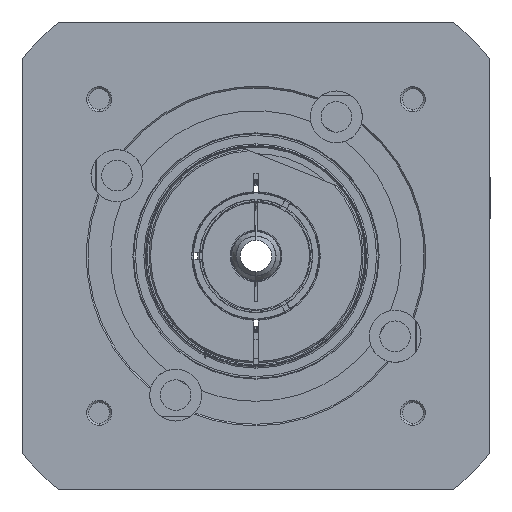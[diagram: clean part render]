
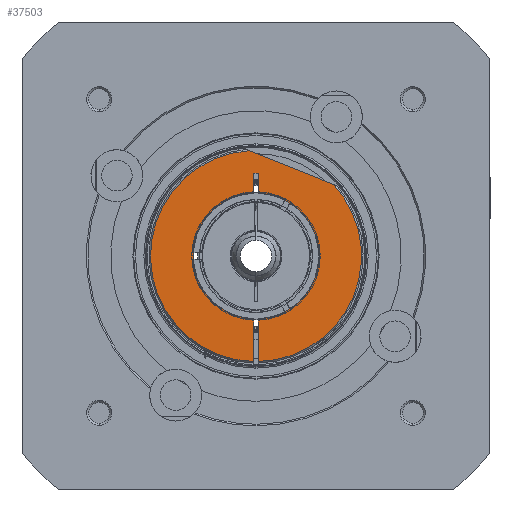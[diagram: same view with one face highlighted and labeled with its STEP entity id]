
A CAD part, left-side view. The second image highlights one B-rep face of the part: STEP entity #37503.
In plain terms, the highlighted planar face has unit normal (-1, 0, 0).
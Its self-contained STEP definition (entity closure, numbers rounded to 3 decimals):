
#895 = CARTESIAN_POINT ( 'NONE',  ( -139.97, 0., 0. ) ) ;
#1285 = VECTOR ( 'NONE', #34674, 1000. ) ;
#1661 = ORIENTED_EDGE ( 'NONE', *, *, #30618, .T. ) ;
#3346 = LINE ( 'NONE', #49158, #40264 ) ;
#4895 = EDGE_CURVE ( 'NONE', #32345, #30576, #5176, .T. ) ;
#5176 = CIRCLE ( 'NONE', #36086, 20.6 ) ;
#5492 = CIRCLE ( 'NONE', #16084, 34.5 ) ;
#5856 = ORIENTED_EDGE ( 'NONE', *, *, #42438, .T. ) ;
#6571 = CARTESIAN_POINT ( 'NONE',  ( -139.97, 3.203, 34.853 ) ) ;
#7576 = VERTEX_POINT ( 'NONE', #32714 ) ;
#7639 = CARTESIAN_POINT ( 'NONE',  ( -139.97, 0., 0. ) ) ;
#8224 = DIRECTION ( 'NONE',  ( 1., 0., 0. ) ) ;
#8691 = EDGE_CURVE ( 'NONE', #7576, #49073, #5492, .T. ) ;
#9440 = DIRECTION ( 'NONE',  ( 0., 0., -1. ) ) ;
#9922 = EDGE_CURVE ( 'NONE', #36369, #44757, #24710, .T. ) ;
#10126 = VERTEX_POINT ( 'NONE', #30111 ) ;
#10492 = CARTESIAN_POINT ( 'NONE',  ( -139.97, 0.75, -34.492 ) ) ;
#10913 = ORIENTED_EDGE ( 'NONE', *, *, #9922, .T. ) ;
#11651 = CARTESIAN_POINT ( 'NONE',  ( -139.97, -0.75, -20.586 ) ) ;
#11749 = DIRECTION ( 'NONE',  ( 0., 0., 1. ) ) ;
#11809 = CIRCLE ( 'NONE', #48800, 34.5 ) ;
#15092 = DIRECTION ( 'NONE',  ( 0., 0., -1. ) ) ;
#15119 = CARTESIAN_POINT ( 'NONE',  ( -139.97, 0., 0. ) ) ;
#16084 = AXIS2_PLACEMENT_3D ( 'NONE', #7639, #49274, #45127 ) ;
#16145 = CARTESIAN_POINT ( 'NONE',  ( -139.97, 0.75, 27. ) ) ;
#16155 = DIRECTION ( 'NONE',  ( 0., -1., 0. ) ) ;
#16689 = VECTOR ( 'NONE', #28379, 1000. ) ;
#16783 = VECTOR ( 'NONE', #11749, 1000. ) ;
#16872 = EDGE_CURVE ( 'NONE', #10126, #33609, #53713, .T. ) ;
#17064 = ORIENTED_EDGE ( 'NONE', *, *, #8691, .T. ) ;
#19199 = CARTESIAN_POINT ( 'NONE',  ( -139.97, 0., 0. ) ) ;
#20251 = CARTESIAN_POINT ( 'NONE',  ( -139.97, 0.75, 27. ) ) ;
#21109 = CARTESIAN_POINT ( 'NONE',  ( -139.97, 0.75, 27. ) ) ;
#22928 = VERTEX_POINT ( 'NONE', #38289 ) ;
#23406 = DIRECTION ( 'NONE',  ( 0., 0.928, 0.372 ) ) ;
#23648 = DIRECTION ( 'NONE',  ( 1., 0., 0. ) ) ;
#24391 = CARTESIAN_POINT ( 'NONE',  ( -139.97, -0.75, 20.586 ) ) ;
#24638 = AXIS2_PLACEMENT_3D ( 'NONE', #19199, #23648, #15092 ) ;
#24710 = LINE ( 'NONE', #21109, #53983 ) ;
#25471 = FACE_OUTER_BOUND ( 'NONE', #43399, .T. ) ;
#25734 = DIRECTION ( 'NONE',  ( 1., 0., 0. ) ) ;
#26320 = LINE ( 'NONE', #42052, #1285 ) ;
#27271 = ORIENTED_EDGE ( 'NONE', *, *, #53301, .T. ) ;
#28379 = DIRECTION ( 'NONE',  ( 0., 0., 1. ) ) ;
#30111 = CARTESIAN_POINT ( 'NONE',  ( -139.97, 0.75, -20.586 ) ) ;
#30576 = VERTEX_POINT ( 'NONE', #11651 ) ;
#30618 = EDGE_CURVE ( 'NONE', #44757, #32345, #3346, .T. ) ;
#30710 = AXIS2_PLACEMENT_3D ( 'NONE', #895, #25734, #9440 ) ;
#32345 = VERTEX_POINT ( 'NONE', #24391 ) ;
#32414 = VERTEX_POINT ( 'NONE', #10492 ) ;
#32714 = CARTESIAN_POINT ( 'NONE',  ( -139.97, -0.75, -34.492 ) ) ;
#32804 = LINE ( 'NONE', #49300, #16689 ) ;
#33609 = VERTEX_POINT ( 'NONE', #42544 ) ;
#33671 = DIRECTION ( 'NONE',  ( 0., 0., -1. ) ) ;
#34674 = DIRECTION ( 'NONE',  ( 0., 0., -1. ) ) ;
#36086 = AXIS2_PLACEMENT_3D ( 'NONE', #42696, #8224, #33671 ) ;
#36369 = VERTEX_POINT ( 'NONE', #20251 ) ;
#37146 = LINE ( 'NONE', #16145, #16783 ) ;
#37304 = ORIENTED_EDGE ( 'NONE', *, *, #16872, .T. ) ;
#37503 = ADVANCED_FACE ( 'NONE', ( #25471 ), #43123, .F. ) ;
#37592 = DIRECTION ( 'NONE',  ( 0., 0., -1. ) ) ;
#38289 = CARTESIAN_POINT ( 'NONE',  ( -139.97, 2.155, 34.433 ) ) ;
#39760 = ORIENTED_EDGE ( 'NONE', *, *, #51357, .T. ) ;
#40264 = VECTOR ( 'NONE', #37592, 1000. ) ;
#42052 = CARTESIAN_POINT ( 'NONE',  ( -139.97, -0.75, 27. ) ) ;
#42438 = EDGE_CURVE ( 'NONE', #22928, #32414, #11809, .T. ) ;
#42544 = CARTESIAN_POINT ( 'NONE',  ( -139.97, 0.75, 20.586 ) ) ;
#42696 = CARTESIAN_POINT ( 'NONE',  ( -139.97, 0., 0. ) ) ;
#42801 = EDGE_CURVE ( 'NONE', #30576, #7576, #26320, .T. ) ;
#43123 = PLANE ( 'NONE',  #30710 ) ;
#43366 = ORIENTED_EDGE ( 'NONE', *, *, #51407, .T. ) ;
#43399 = EDGE_LOOP ( 'NONE', ( #17064, #39760, #5856, #43366, #37304, #27271, #10913, #1661, #46884, #44663 ) ) ;
#44355 = LINE ( 'NONE', #6571, #46629 ) ;
#44663 = ORIENTED_EDGE ( 'NONE', *, *, #42801, .T. ) ;
#44757 = VERTEX_POINT ( 'NONE', #54538 ) ;
#45127 = DIRECTION ( 'NONE',  ( 0., 0., -1. ) ) ;
#46629 = VECTOR ( 'NONE', #23406, 1000. ) ;
#46884 = ORIENTED_EDGE ( 'NONE', *, *, #4895, .T. ) ;
#48181 = DIRECTION ( 'NONE',  ( 0., 0., -1. ) ) ;
#48467 = DIRECTION ( 'NONE',  ( -1., 0., 0. ) ) ;
#48800 = AXIS2_PLACEMENT_3D ( 'NONE', #15119, #48467, #48181 ) ;
#49073 = VERTEX_POINT ( 'NONE', #53936 ) ;
#49158 = CARTESIAN_POINT ( 'NONE',  ( -139.97, -0.75, 27. ) ) ;
#49274 = DIRECTION ( 'NONE',  ( -1., 0., 0. ) ) ;
#49300 = CARTESIAN_POINT ( 'NONE',  ( -139.97, 0.75, 27. ) ) ;
#51357 = EDGE_CURVE ( 'NONE', #49073, #22928, #44355, .T. ) ;
#51407 = EDGE_CURVE ( 'NONE', #32414, #10126, #32804, .T. ) ;
#53301 = EDGE_CURVE ( 'NONE', #33609, #36369, #37146, .T. ) ;
#53713 = CIRCLE ( 'NONE', #24638, 20.6 ) ;
#53936 = CARTESIAN_POINT ( 'NONE',  ( -139.97, -25.35, 23.401 ) ) ;
#53983 = VECTOR ( 'NONE', #16155, 1000. ) ;
#54538 = CARTESIAN_POINT ( 'NONE',  ( -139.97, -0.75, 27. ) ) ;
